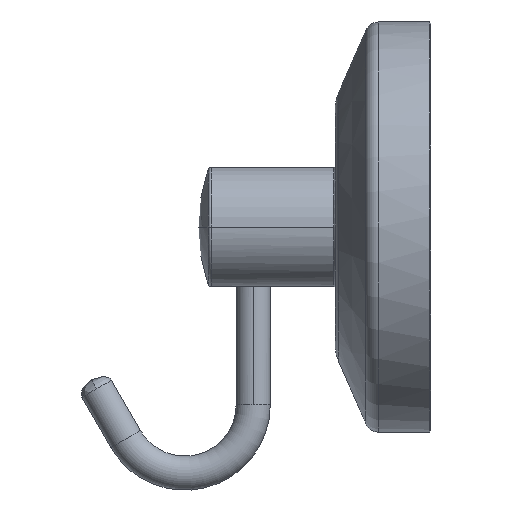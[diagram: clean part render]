
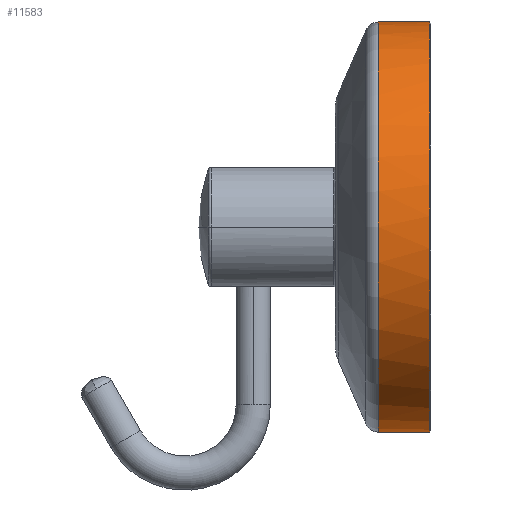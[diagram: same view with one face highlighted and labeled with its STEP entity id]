
A CAD part, left-side view. The second image highlights one B-rep face of the part: STEP entity #11583.
In plain terms, the highlighted cylindrical face has radius 30 mm (diameter 60 mm), a partial arc.
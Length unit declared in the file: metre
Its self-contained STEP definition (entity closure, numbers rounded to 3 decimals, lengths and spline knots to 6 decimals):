
#74=VERTEX_POINT('',#75);
#75=CARTESIAN_POINT('',(-0.3,-0.0138,-0.03));
#82=VERTEX_POINT('',#83);
#83=CARTESIAN_POINT('',(-0.3,-0.0138,0.03));
#160=VERTEX_POINT('',#161);
#161=CARTESIAN_POINT('',(-0.3,-0.006311,-0.03));
#168=EDGE_CURVE('',#160,#169,#171,.T.);
#169=VERTEX_POINT('',#170);
#170=CARTESIAN_POINT('',(-0.3,-0.006311,0.03));
#171=CIRCLE('',#172,0.03);
#172=AXIS2_PLACEMENT_3D('',#173,#174,#175);
#173=CARTESIAN_POINT('',(-0.3,-0.006311,0.0));
#174=DIRECTION('',(0.0,1.0,0.0));
#175=DIRECTION('',(0.0,0.0,-1.0));
#206=CYLINDRICAL_SURFACE('',#207,0.03);
#207=AXIS2_PLACEMENT_3D('',#208,#209,#210);
#208=CARTESIAN_POINT('',(-0.3,0.0,0.0));
#209=DIRECTION('',(0.0,1.0,0.0));
#210=DIRECTION('',(0.0,0.0,1.0));
#215=EDGE_CURVE('',#74,#160,#216,.T.);
#216=LINE('',#217,#218);
#217=CARTESIAN_POINT('',(-0.3,0.0,-0.03));
#218=VECTOR('',#219,1.0);
#219=DIRECTION('',(0.0,1.0,0.0));
#228=EDGE_CURVE('',#82,#169,#229,.T.);
#229=LINE('',#230,#231);
#230=CARTESIAN_POINT('',(-0.3,-0.005,0.03));
#231=VECTOR('',#232,1.0);
#232=DIRECTION('',(0.0,1.0,0.0));
#11581=FACE_OUTER_BOUND('',#11584,.T.);
#11583=ADVANCED_FACE('',(#11581),#206,.T.);
#11584=EDGE_LOOP('',(#11585,#11586,#11594,#11595));
#11585=ORIENTED_EDGE('',*,*,#215,.F.);
#11586=ORIENTED_EDGE('',*,*,#11588,.T.);
#11587=CARTESIAN_POINT('',(-0.3,-0.0138,-0.03));
#11588=EDGE_CURVE('',#74,#82,#11589,.T.);
#11589=(B_SPLINE_CURVE(3,(#11587,#11590,#11591,#11592),.UNSPECIFIED.,.F.,
  .U.)B_SPLINE_CURVE_WITH_KNOTS((4,4),(0.0,1.0),.UNSPECIFIED.)BOUNDED_CURVE(
  )CURVE()GEOMETRIC_REPRESENTATION_ITEM()RATIONAL_B_SPLINE_CURVE((1.0,
  0.333,0.333,1.0))REPRESENTATION_ITEM(''));
#11590=CARTESIAN_POINT('',(-0.36,-0.0138,-0.03));
#11591=CARTESIAN_POINT('',(-0.36,-0.0138,0.03));
#11592=CARTESIAN_POINT('',(-0.3,-0.0138,0.03));
#11594=ORIENTED_EDGE('',*,*,#228,.T.);
#11595=ORIENTED_EDGE('',*,*,#168,.F.);
